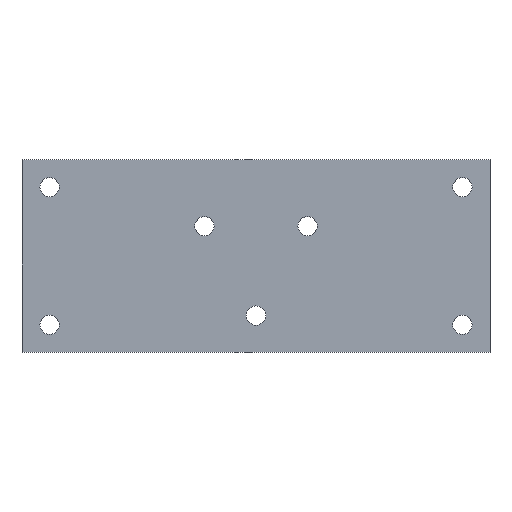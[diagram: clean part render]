
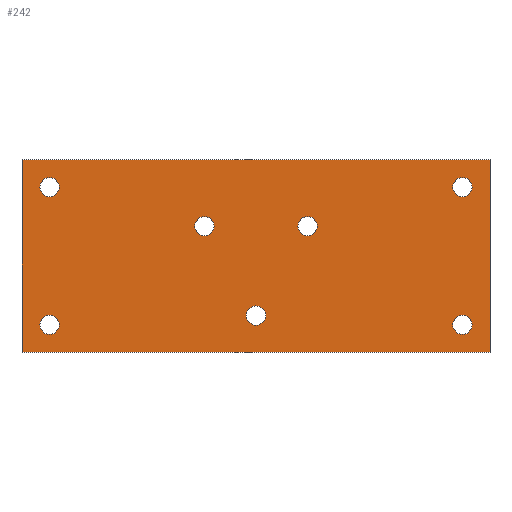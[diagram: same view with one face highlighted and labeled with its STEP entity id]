
A CAD part, top view. The second image highlights one B-rep face of the part: STEP entity #242.
In plain terms, the highlighted planar face has unit normal (0, 0, 1).
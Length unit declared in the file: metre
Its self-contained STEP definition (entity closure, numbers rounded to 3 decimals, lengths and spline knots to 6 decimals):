
#12=CIRCLE('',#261,0.0028);
#14=CIRCLE('',#264,0.0028);
#16=CIRCLE('',#267,0.0028);
#18=CIRCLE('',#270,0.0028);
#20=CIRCLE('',#273,0.0028);
#22=CIRCLE('',#276,0.0028);
#24=CIRCLE('',#280,0.0028);
#63=ORIENTED_EDGE('',*,*,#87,.F.);
#64=ORIENTED_EDGE('',*,*,#91,.F.);
#65=ORIENTED_EDGE('',*,*,#94,.T.);
#66=ORIENTED_EDGE('',*,*,#108,.T.);
#67=ORIENTED_EDGE('',*,*,#105,.F.);
#68=ORIENTED_EDGE('',*,*,#103,.F.);
#69=ORIENTED_EDGE('',*,*,#101,.F.);
#70=ORIENTED_EDGE('',*,*,#99,.F.);
#71=ORIENTED_EDGE('',*,*,#97,.F.);
#72=ORIENTED_EDGE('',*,*,#95,.F.);
#73=ORIENTED_EDGE('',*,*,#109,.F.);
#87=EDGE_CURVE('',#113,#114,#135,.T.);
#91=EDGE_CURVE('',#116,#113,#139,.T.);
#94=EDGE_CURVE('',#116,#118,#142,.T.);
#95=EDGE_CURVE('',#119,#119,#12,.T.);
#97=EDGE_CURVE('',#121,#121,#14,.T.);
#99=EDGE_CURVE('',#123,#123,#16,.T.);
#101=EDGE_CURVE('',#125,#125,#18,.T.);
#103=EDGE_CURVE('',#127,#127,#20,.T.);
#105=EDGE_CURVE('',#129,#129,#22,.T.);
#108=EDGE_CURVE('',#118,#114,#144,.T.);
#109=EDGE_CURVE('',#131,#131,#24,.T.);
#113=VERTEX_POINT('',#358);
#114=VERTEX_POINT('',#360);
#116=VERTEX_POINT('',#366);
#118=VERTEX_POINT('',#372);
#119=VERTEX_POINT('',#376);
#121=VERTEX_POINT('',#381);
#123=VERTEX_POINT('',#386);
#125=VERTEX_POINT('',#391);
#127=VERTEX_POINT('',#396);
#129=VERTEX_POINT('',#401);
#131=VERTEX_POINT('',#409);
#135=LINE('',#359,#147);
#139=LINE('',#367,#151);
#142=LINE('',#373,#154);
#144=LINE('',#406,#156);
#147=VECTOR('',#290,1.);
#151=VECTOR('',#296,1.);
#154=VECTOR('',#301,1.);
#156=VECTOR('',#341,1.);
#175=EDGE_LOOP('',(#63,#64,#65,#66));
#176=EDGE_LOOP('',(#67));
#177=EDGE_LOOP('',(#68));
#178=EDGE_LOOP('',(#69));
#179=EDGE_LOOP('',(#70));
#180=EDGE_LOOP('',(#71));
#181=EDGE_LOOP('',(#72));
#182=EDGE_LOOP('',(#73));
#209=FACE_BOUND('',#175,.T.);
#210=FACE_BOUND('',#176,.T.);
#211=FACE_BOUND('',#177,.T.);
#212=FACE_BOUND('',#178,.T.);
#213=FACE_BOUND('',#179,.T.);
#214=FACE_BOUND('',#180,.T.);
#215=FACE_BOUND('',#181,.T.);
#216=FACE_BOUND('',#182,.T.);
#229=PLANE('',#282);
#242=ADVANCED_FACE('',(#209,#210,#211,#212,#213,#214,#215,#216),#229,.T.);
#261=AXIS2_PLACEMENT_3D('',#375,#304,#305);
#264=AXIS2_PLACEMENT_3D('',#380,#310,#311);
#267=AXIS2_PLACEMENT_3D('',#385,#316,#317);
#270=AXIS2_PLACEMENT_3D('',#390,#322,#323);
#273=AXIS2_PLACEMENT_3D('',#395,#328,#329);
#276=AXIS2_PLACEMENT_3D('',#400,#334,#335);
#280=AXIS2_PLACEMENT_3D('',#408,#344,#345);
#282=AXIS2_PLACEMENT_3D('',#412,#348,#349);
#290=DIRECTION('',(0.,1.,0.));
#296=DIRECTION('',(-1.,0.,0.));
#301=DIRECTION('',(0.,1.,0.));
#304=DIRECTION('',(0.,0.,1.));
#305=DIRECTION('',(1.,0.,0.));
#310=DIRECTION('',(0.,0.,1.));
#311=DIRECTION('',(1.,0.,0.));
#316=DIRECTION('',(0.,0.,1.));
#317=DIRECTION('',(1.,0.,0.));
#322=DIRECTION('',(0.,0.,1.));
#323=DIRECTION('',(1.,0.,0.));
#328=DIRECTION('',(0.,0.,1.));
#329=DIRECTION('',(1.,0.,0.));
#334=DIRECTION('',(0.,0.,1.));
#335=DIRECTION('',(1.,0.,0.));
#341=DIRECTION('',(-1.,0.,0.));
#344=DIRECTION('',(0.,0.,1.));
#345=DIRECTION('',(1.,0.,0.));
#348=DIRECTION('',(0.,0.,1.));
#349=DIRECTION('',(1.,0.,0.));
#358=CARTESIAN_POINT('',(-0.068,-0.028,0.01));
#359=CARTESIAN_POINT('',(-0.068,0.,0.01));
#360=CARTESIAN_POINT('',(-0.068,0.028,0.01));
#366=CARTESIAN_POINT('',(0.068,-0.028,0.01));
#367=CARTESIAN_POINT('',(0.,-0.028,0.01));
#372=CARTESIAN_POINT('',(0.068,0.028,0.01));
#373=CARTESIAN_POINT('',(0.068,0.,0.01));
#375=CARTESIAN_POINT('',(0.015,0.00866,0.01));
#376=CARTESIAN_POINT('',(0.0178,0.00866,0.01));
#380=CARTESIAN_POINT('',(-0.015,0.00866,0.01));
#381=CARTESIAN_POINT('',(-0.0122,0.00866,0.01));
#385=CARTESIAN_POINT('',(-0.06,-0.02,0.01));
#386=CARTESIAN_POINT('',(-0.0572,-0.02,0.01));
#390=CARTESIAN_POINT('',(0.06,-0.02,0.01));
#391=CARTESIAN_POINT('',(0.0628,-0.02,0.01));
#395=CARTESIAN_POINT('',(0.06,0.02,0.01));
#396=CARTESIAN_POINT('',(0.0628,0.02,0.01));
#400=CARTESIAN_POINT('',(-0.06,0.02,0.01));
#401=CARTESIAN_POINT('',(-0.0572,0.02,0.01));
#406=CARTESIAN_POINT('',(0.,0.028,0.01));
#408=CARTESIAN_POINT('',(0.,-0.017321,0.01));
#409=CARTESIAN_POINT('',(0.0028,-0.017321,0.01));
#412=CARTESIAN_POINT('',(0.,0.,0.01));
